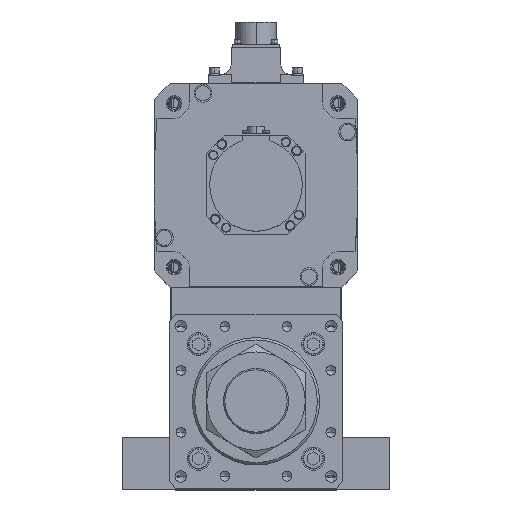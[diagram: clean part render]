
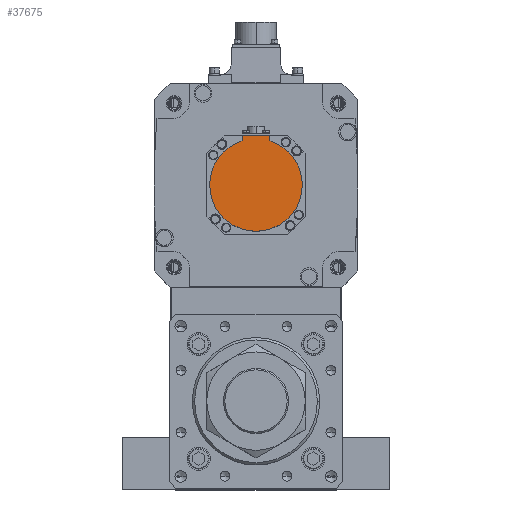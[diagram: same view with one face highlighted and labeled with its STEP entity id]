
A CAD part, top view. The second image highlights one B-rep face of the part: STEP entity #37675.
In plain terms, the highlighted planar face has unit normal (0, 0, 1) as drawn and (0, 0, -1) by its records, which use the part's own axes.
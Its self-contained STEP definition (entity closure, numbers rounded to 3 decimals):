
#24 = VERTEX_POINT ( 'NONE', #23426 ) ;
#173 = CARTESIAN_POINT ( 'NONE',  ( 40., 0., -162.5 ) ) ;
#432 = EDGE_CURVE ( 'NONE', #6608, #2898, #29597, .T. ) ;
#2288 = ORIENTED_EDGE ( 'NONE', *, *, #53903, .F. ) ;
#2641 = CARTESIAN_POINT ( 'NONE',  ( -12., -40.329, -162.5 ) ) ;
#2898 = VERTEX_POINT ( 'NONE', #12871 ) ;
#3421 = VERTEX_POINT ( 'NONE', #173 ) ;
#5071 = LINE ( 'NONE', #2641, #10958 ) ;
#5297 = ORIENTED_EDGE ( 'NONE', *, *, #29048, .F. ) ;
#5741 = DIRECTION ( 'NONE',  ( -1., 0., 0. ) ) ;
#5978 = CIRCLE ( 'NONE', #21346, 40. ) ;
#6608 = VERTEX_POINT ( 'NONE', #42165 ) ;
#9426 = CARTESIAN_POINT ( 'NONE',  ( 0., -1.249, -162.5 ) ) ;
#10958 = VECTOR ( 'NONE', #40167, 1000. ) ;
#11862 = CARTESIAN_POINT ( 'NONE',  ( 0., 0., -162.5 ) ) ;
#12871 = CARTESIAN_POINT ( 'NONE',  ( -12., -42.5, -162.5 ) ) ;
#14343 = ORIENTED_EDGE ( 'NONE', *, *, #53201, .F. ) ;
#15271 = CARTESIAN_POINT ( 'NONE',  ( 12., -1.249, -162.5 ) ) ;
#17442 = DIRECTION ( 'NONE',  ( 0., 0., 1. ) ) ;
#18270 = EDGE_LOOP ( 'NONE', ( #45170, #34998, #14343, #2288, #5297, #19004 ) ) ;
#19004 = ORIENTED_EDGE ( 'NONE', *, *, #432, .T. ) ;
#19444 = DIRECTION ( 'NONE',  ( 0., 1., 0. ) ) ;
#19720 = VECTOR ( 'NONE', #19444, 1000. ) ;
#20862 = DIRECTION ( 'NONE',  ( 0., 0., 1. ) ) ;
#21346 = AXIS2_PLACEMENT_3D ( 'NONE', #33221, #20862, #25051 ) ;
#23426 = CARTESIAN_POINT ( 'NONE',  ( -12., -38.158, -162.5 ) ) ;
#23747 = DIRECTION ( 'NONE',  ( 0., 0., 1. ) ) ;
#23997 = CARTESIAN_POINT ( 'NONE',  ( 12., -38.158, -162.5 ) ) ;
#25051 = DIRECTION ( 'NONE',  ( 1., 0., 0. ) ) ;
#26114 = CARTESIAN_POINT ( 'NONE',  ( 0., -42.5, -162.5 ) ) ;
#27019 = VECTOR ( 'NONE', #5741, 1000. ) ;
#27950 = EDGE_CURVE ( 'NONE', #2898, #24, #5071, .T. ) ;
#28496 = AXIS2_PLACEMENT_3D ( 'NONE', #52848, #23747, #44479 ) ;
#28794 = LINE ( 'NONE', #15271, #19720 ) ;
#28856 = FACE_OUTER_BOUND ( 'NONE', #18270, .T. ) ;
#29048 = EDGE_CURVE ( 'NONE', #6608, #37404, #28794, .T. ) ;
#29597 = LINE ( 'NONE', #26114, #27019 ) ;
#30736 = CIRCLE ( 'NONE', #40210, 40. ) ;
#33221 = CARTESIAN_POINT ( 'NONE',  ( 0., 0., -162.5 ) ) ;
#34998 = ORIENTED_EDGE ( 'NONE', *, *, #38982, .F. ) ;
#37404 = VERTEX_POINT ( 'NONE', #23997 ) ;
#37675 = ADVANCED_FACE ( 'NONE', ( #28856 ), #37985, .F. ) ;
#37985 = PLANE ( 'NONE',  #48325 ) ;
#38948 = VERTEX_POINT ( 'NONE', #48305 ) ;
#38982 = EDGE_CURVE ( 'NONE', #38948, #24, #45398, .T. ) ;
#40167 = DIRECTION ( 'NONE',  ( 0., 1., 0. ) ) ;
#40210 = AXIS2_PLACEMENT_3D ( 'NONE', #11862, #49471, #40947 ) ;
#40947 = DIRECTION ( 'NONE',  ( 1., 0., 0. ) ) ;
#42165 = CARTESIAN_POINT ( 'NONE',  ( 12., -42.5, -162.5 ) ) ;
#44479 = DIRECTION ( 'NONE',  ( 1., 0., 0. ) ) ;
#45170 = ORIENTED_EDGE ( 'NONE', *, *, #27950, .T. ) ;
#45398 = CIRCLE ( 'NONE', #28496, 40. ) ;
#46327 = DIRECTION ( 'NONE',  ( 1., 0., 0. ) ) ;
#48305 = CARTESIAN_POINT ( 'NONE',  ( -40., 0., -162.5 ) ) ;
#48325 = AXIS2_PLACEMENT_3D ( 'NONE', #9426, #17442, #46327 ) ;
#49471 = DIRECTION ( 'NONE',  ( 0., 0., 1. ) ) ;
#52848 = CARTESIAN_POINT ( 'NONE',  ( 0., 0., -162.5 ) ) ;
#53201 = EDGE_CURVE ( 'NONE', #3421, #38948, #30736, .T. ) ;
#53903 = EDGE_CURVE ( 'NONE', #37404, #3421, #5978, .T. ) ;
